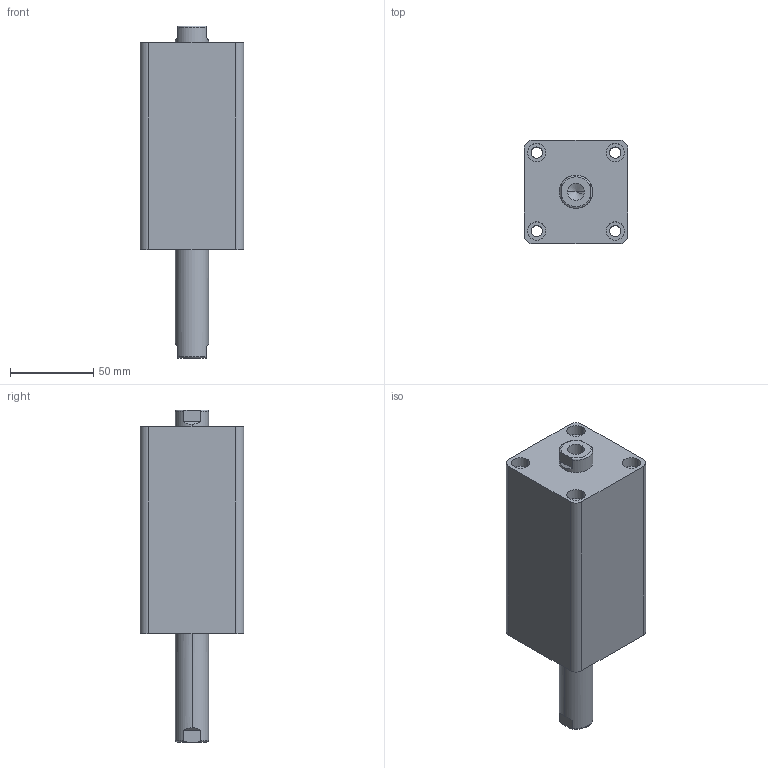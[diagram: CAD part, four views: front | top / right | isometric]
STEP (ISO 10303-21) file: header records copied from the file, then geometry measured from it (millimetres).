
FILE_DESCRIPTION (( 'STEP AP203' ), '1' );
FILE_NAME ('HTB-SW32-55N.STEP', '2019-10-07T08:54:30', ( '微软用户' ), ( '微软中国' ), 'SwSTEP 2.0', 'SolidWorks 2012', '' );
FILE_SCHEMA (( 'CONFIG_CONTROL_DESIGN' ));
Length unit declared in the file: millimetre
Products named in the file (3): HTB-SW32-55N; HTB-SW32-55N活塞杆; HTB-SW32-55掛极
Assembly tree (2 placements, depth 2):
  HTB-SW32-55N
    HTB-SW32-55掛极
    HTB-SW32-55N活塞杆
Bounding box: 62 x 62 x 199 mm (x, y, z)
Volume: 444379.6 mm3; surface area: 75564.4 mm2
Topology: 2 solids, 2 shells, 100 faces, 228 edges, 146 vertices
Faces by surface type: cylinder 48, plane 32, torus 12, cone 8
Entity records: 3237 total; most frequent: CARTESIAN_POINT 595, DIRECTION 542, ORIENTED_EDGE 448, AXIS2_PLACEMENT_3D 229, EDGE_CURVE 224, VERTEX_POINT 146, EDGE_LOOP 128, CIRCLE 124
